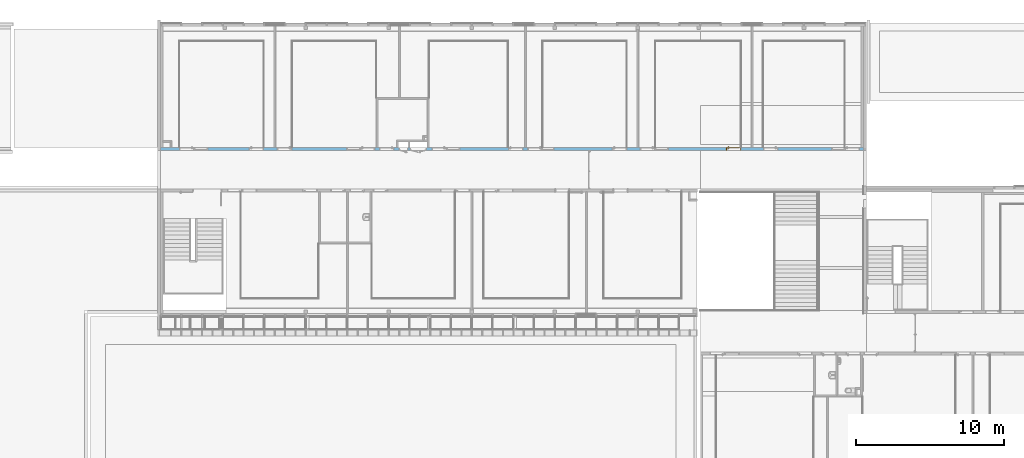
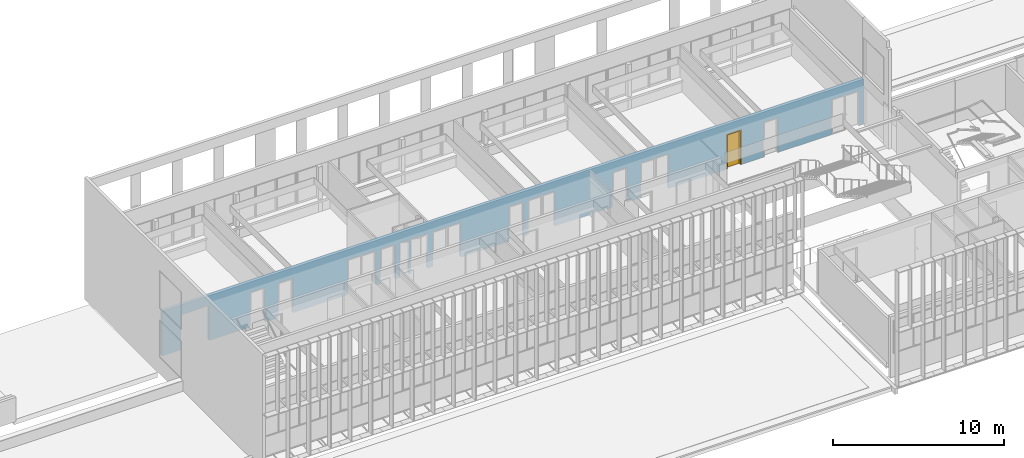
# One storey, part 58 of 106: 1 door, 21 openings, plus 1 element that does not belong to this part.
"""IFC2X3 building model written with IfcOpenShell, lengths in centimetres."""

from ifc_helpers import new_model, entity, si_unit, converted_unit, derived_unit, direction, frame, frame_2d, origin, place, context, subcontext, project, spatial, polyline, rectangle, extrude, clip, bounded_halfspace, faceted_brep, source, transform, mapped, material, material_list, layer, layer_set, layer_usage, type_object, type_shapes, element, fill, save


model = new_model("IFC2X3")

# Units and contexts
model_context = context("Model", 3, precision=0.001, world=origin(), true_north=direction((6.12303176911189e-17, 1.0)))
body_context = subcontext(model_context, "Body", "Model", "MODEL_VIEW")
ifc_project = project(units=[si_unit("LENGTHUNIT", "METRE", prefix="CENTI"), si_unit("AREAUNIT", "SQUARE_METRE"), si_unit("VOLUMEUNIT", "CUBIC_METRE"), converted_unit("PLANEANGLEUNIT", "DEGREE", entity("IfcRatioMeasure", 0.0174532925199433), si_unit("PLANEANGLEUNIT", "RADIAN"), dimensions=[0, 0, 0, 0, 0, 0, 0]), si_unit("MASSUNIT", "GRAM", prefix="KILO"), derived_unit("MASSDENSITYUNIT", [(si_unit("MASSUNIT", "GRAM", prefix="KILO"), 1), (si_unit("LENGTHUNIT", "METRE"), -3)]), si_unit("TIMEUNIT", "SECOND"), si_unit("FREQUENCYUNIT", "HERTZ"), si_unit("THERMODYNAMICTEMPERATUREUNIT", "DEGREE_CELSIUS"), derived_unit("THERMALTRANSMITTANCEUNIT", [(si_unit("MASSUNIT", "GRAM", prefix="KILO"), 1), (si_unit("THERMODYNAMICTEMPERATUREUNIT", "KELVIN"), -1), (si_unit("TIMEUNIT", "SECOND"), -3)]), derived_unit("VOLUMETRICFLOWRATEUNIT", [(si_unit("LENGTHUNIT", "METRE"), 3), (si_unit("TIMEUNIT", "SECOND"), -1)]), si_unit("ELECTRICCURRENTUNIT", "AMPERE"), si_unit("ELECTRICVOLTAGEUNIT", "VOLT"), si_unit("POWERUNIT", "WATT"), si_unit("FORCEUNIT", "NEWTON", prefix="KILO"), si_unit("ILLUMINANCEUNIT", "LUX"), si_unit("LUMINOUSFLUXUNIT", "LUMEN"), si_unit("LUMINOUSINTENSITYUNIT", "CANDELA"), derived_unit("USERDEFINED", [(si_unit("MASSUNIT", "GRAM", prefix="KILO"), -1), (si_unit("LENGTHUNIT", "METRE"), -2), (si_unit("TIMEUNIT", "SECOND"), 3), (si_unit("LUMINOUSFLUXUNIT", "LUMEN"), 1)]), derived_unit("LINEARVELOCITYUNIT", [(si_unit("LENGTHUNIT", "METRE"), 1), (si_unit("TIMEUNIT", "SECOND"), -1)]), si_unit("PRESSUREUNIT", "PASCAL"), derived_unit("USERDEFINED", [(si_unit("LENGTHUNIT", "METRE"), -2), (si_unit("MASSUNIT", "GRAM", prefix="KILO"), 1), (si_unit("TIMEUNIT", "SECOND"), -2)])], contexts=[model_context])

# Site, building, storey
site_placement = place(None, frame((-2781.94577612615, 7442.24238424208, 0.0)))
site = spatial("IfcSite", under=ifc_project, at=site_placement, Name="Default", CompositionType="ELEMENT")
building_placement = place(site_placement, origin())
building = spatial("IfcBuilding", under=site, at=building_placement, CompositionType="ELEMENT")
storey_placement = place(building_placement, frame((0.0, 0.0, 422.0)))
storey = spatial("IfcBuildingStorey", under=building, at=storey_placement, Name="Toiture - Cuisine", CompositionType="ELEMENT", Elevation=421.999999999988)

# Wall, openings, door
ifc_material_1 = material(Name="01 - Maçonnerie")
ifc_layer = layer(ifc_material_1, 20.0)
ifc_layer_set = layer_set([ifc_layer], Name="Mur de base:04 - Structure - béton - 20cm")
ifc_layer_usage = layer_usage(ifc_layer_set, "AXIS2", "NEGATIVE", 10.0)
wall_type = type_object("IfcWallType", Name="Mur de base:04 - Structure - béton - 20cm", PredefinedType="STANDARD", material=ifc_layer_set)
wall_placement = place(building_placement, frame((-8409.49987766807, -820.048500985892, 422.0)))
wall = element("IfcWallStandardCase", 1, at=wall_placement, inside=storey, type_object=wall_type, material=ifc_layer_usage, Name="Mur de base:04 - Structure - béton - 20cm", ObjectType="Mur de base:04 - Structure - béton - 20cm", context=body_context, shape_type="Clipping", body=[
    clip(extrude(rectangle(XDim=4741.49999798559, YDim=20.0, at=frame_2d((2370.74999899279, 2.04281036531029e-14), x_axis=(-1.0, 0.0))), origin(), (0.0, 0.0, 1.0), 321.0), bounded_halfspace(frame((4741.49999798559, -10.0, 321.0), z_axis=(0.0, 0.0, -1.0), x_axis=(0.0, 1.0, 0.0)), True, frame((4741.49999798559, -10.0, 321.0)), polyline([(0.0, 0.0), (0.0, 20.0), (-15.3000000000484, 20.0), (-125.300000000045, 20.0), (-127.300000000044, 20.0), (-675.800000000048, 20.0), (-677.800000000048, 20.0), (-745.800000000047, 20.0), (-755.800000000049, 20.0), (-825.800000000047, 20.0), (-827.800000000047, 20.0), (-1403.80000000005, 20.0), (-1405.80000000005, 20.0), (-1516.49999791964, 20.0), (-1526.49999791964, 20.0), (-1595.78709704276, 20.0), (-1597.78709704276, 20.0), (-2163.80000000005, 20.0), (-2165.80000000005, 20.0), (-2275.80000000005, 20.0), (-2285.80000000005, 20.0), (-2395.80000000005, 20.0), (-2397.80000000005, 20.0), (-2931.80000000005, 20.0), (-2941.80000000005, 20.0), (-3060.80000000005, 20.0), (-3070.80000000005, 20.0), (-3137.80000000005, 20.0), (-3147.80000000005, 20.0), (-3275.80000000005, 20.0), (-3285.80000000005, 20.0), (-3416.49999791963, 20.0), (-3535.80000000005, 20.0), (-3545.80000000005, 20.0), (-3611.80000000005, 20.0), (-3853.80000000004, 20.0), (-3855.80000000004, 20.0), (-3965.80000000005, 20.0), (-3975.80000000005, 20.0), (-4044.30000000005, 20.0), (-4046.30000000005, 20.0), (-4614.19999798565, 20.0), (-4616.19999798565, 20.0), (-4666.19999798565, 20.0), (-4676.19999798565, 20.0), (-4726.19999798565, 20.0), (-4741.49999798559, 20.0), (-4741.49999798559, 0.0), (-1854.0, 0.0), (-1844.0, 0.0), (-1840.0, 0.0), (0.0, 0.0)]))),
])
opening_1_placement = place(wall_placement, frame((1669.50000006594, 10.0, 0.0)))
element("IfcOpeningElement", 2, at=opening_1_placement, cuts=wall, Name="Int. Simple:PP Placard (0.55m x 2.50m):1", ObjectType="Opening", context=body_context, shape_type="SweptSolid", body=[
    extrude(rectangle(XDim=248.500000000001, YDim=61.9999999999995, at=frame_2d((124.250000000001, 30.9999999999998), x_axis=(1.0, 0.0))), frame((0.0, 0.0, 0.0), z_axis=(0.0, -1.0, 0.0), x_axis=(0.0, 0.0, 1.0)), (0.0, 0.0, 1.0), 20.0),
])
opening_2_placement = place(wall_placement, frame((1794.50000006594, 10.0, 0.0)))
element("IfcOpeningElement", 3, at=opening_2_placement, cuts=wall, Name="Int. Double:PP Placard (1.05m x 2.50m):1", ObjectType="Opening", context=body_context, shape_type="SweptSolid", body=[
    extrude(rectangle(XDim=248.500000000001, YDim=112.0, at=frame_2d((124.250000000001, 56.0000000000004), x_axis=(1.0, 0.0))), frame((0.0, 0.0, 0.0), z_axis=(0.0, -1.0, 0.0), x_axis=(0.0, 0.0, 1.0)), (0.0, 0.0, 1.0), 20.0),
])
opening_3_placement = place(wall_placement, frame((126.799999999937, -10.0, 0.0)))
element("IfcOpeningElement", 4, at=opening_3_placement, cuts=wall, Name="Int. Simple:PV (0.93m x 2.50m):1", ObjectType="Opening", context=body_context, shape_type="SweptSolid", body=[
    extrude(rectangle(XDim=248.500000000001, YDim=99.9999999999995, at=frame_2d((124.250000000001, 50.0), x_axis=(1.0, 0.0))), frame((0.0, 0.0, 0.0), z_axis=(0.0, 1.0, 0.0), x_axis=(0.0, 0.0, 1.0)), (0.0, 0.0, 1.0), 20.0),
])
opening_4_placement = place(wall_placement, frame((595.699997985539, -10.0, 0.0)))
element("IfcOpeningElement", 5, at=opening_4_placement, cuts=wall, Name="Int. Simple:PV (0.93m x 2.50m):1", ObjectType="Opening", context=body_context, shape_type="SweptSolid", body=[
    extrude(rectangle(XDim=248.500000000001, YDim=99.9999999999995, at=frame_2d((124.250000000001, 49.9999999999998), x_axis=(1.0, 0.0))), frame((0.0, 0.0, 0.0), z_axis=(0.0, 1.0, 0.0), x_axis=(0.0, 0.0, 1.0)), (0.0, 0.0, 1.0), 20.0),
])
opening_5_placement = place(wall_placement, frame((785.699997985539, -10.0, 0.0)))
element("IfcOpeningElement", 6, at=opening_5_placement, cuts=wall, Name="Int. Simple:PV (0.93m x 2.50m):1", ObjectType="Opening", context=body_context, shape_type="SweptSolid", body=[
    extrude(rectangle(XDim=248.500000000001, YDim=99.9999999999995, at=frame_2d((124.250000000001, 50.0), x_axis=(1.0, 0.0))), frame((0.0, 0.0, 0.0), z_axis=(0.0, 1.0, 0.0), x_axis=(0.0, 0.0, 1.0)), (0.0, 0.0, 1.0), 20.0),
])
opening_6_placement = place(wall_placement, frame((1345.69999798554, -10.0, 0.0)))
element("IfcOpeningElement", 7, at=opening_6_placement, cuts=wall, Name="Int. Simple:PV (0.93m x 2.50m):1", ObjectType="Opening", context=body_context, shape_type="SweptSolid", body=[
    extrude(rectangle(XDim=248.500000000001, YDim=99.9999999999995, at=frame_2d((124.250000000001, 49.9999999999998), x_axis=(1.0, 0.0))), frame((0.0, 0.0, 0.0), z_axis=(0.0, 1.0, 0.0), x_axis=(0.0, 0.0, 1.0)), (0.0, 0.0, 1.0), 20.0),
])
opening_7_placement = place(wall_placement, frame((1475.69999798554, -10.0, 0.0)))
element("IfcOpeningElement", 8, at=opening_7_placement, cuts=wall, Name="Int. Simple:PP simple (0.93m x 2.50m):1", ObjectType="Opening", context=body_context, shape_type="SweptSolid", body=[
    extrude(rectangle(XDim=248.500000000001, YDim=99.9999999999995, at=frame_2d((124.250000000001, 50.0), x_axis=(1.0, 0.0))), frame((0.0, 0.0, 0.0), z_axis=(0.0, 1.0, 0.0), x_axis=(0.0, 0.0, 1.0)), (0.0, 0.0, 1.0), 20.0),
])
opening_8_placement = place(wall_placement, frame((1829.69999798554, -10.0, 0.0)))
element("IfcOpeningElement", 9, at=opening_8_placement, cuts=wall, Name="Int. Simple:PV (0.93m x 2.50m):1", ObjectType="Opening", context=body_context, shape_type="SweptSolid", body=[
    extrude(rectangle(XDim=248.500000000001, YDim=99.9999999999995, at=frame_2d((124.250000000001, 50.0), x_axis=(1.0, 0.0))), frame((0.0, 0.0, 0.0), z_axis=(0.0, 1.0, 0.0), x_axis=(0.0, 0.0, 1.0)), (0.0, 0.0, 1.0), 20.0),
])
opening_9_placement = place(wall_placement, frame((2345.69999798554, -10.0, 0.0)))
element("IfcOpeningElement", 10, at=opening_9_placement, cuts=wall, Name="Int. Simple:PV (0.93m x 2.50m):1", ObjectType="Opening", context=body_context, shape_type="SweptSolid", body=[
    extrude(rectangle(XDim=248.500000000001, YDim=99.9999999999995, at=frame_2d((124.250000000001, 49.9999999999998), x_axis=(1.0, 0.0))), frame((0.0, 0.0, 0.0), z_axis=(0.0, 1.0, 0.0), x_axis=(0.0, 0.0, 1.0)), (0.0, 0.0, 1.0), 20.0),
])
opening_10_placement = place(wall_placement, frame((2475.69999798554, -10.0, 0.0)))
element("IfcOpeningElement", 11, at=opening_10_placement, cuts=wall, Name="Int. Simple:PV (0.93m x 2.50m):1", ObjectType="Opening", context=body_context, shape_type="SweptSolid", body=[
    extrude(rectangle(XDim=248.500000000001, YDim=99.9999999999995, at=frame_2d((124.250000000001, 50.0), x_axis=(1.0, 0.0))), frame((0.0, 0.0, 0.0), z_axis=(0.0, 1.0, 0.0), x_axis=(0.0, 0.0, 1.0)), (0.0, 0.0, 1.0), 20.0),
])
opening_11_placement = place(wall_placement, frame((3045.69999798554, -10.0, 0.0)))
element("IfcOpeningElement", 12, at=opening_11_placement, cuts=wall, Name="Int. Simple:PV (0.93m x 2.50m):1", ObjectType="Opening", context=body_context, shape_type="SweptSolid", body=[
    extrude(rectangle(XDim=248.500000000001, YDim=99.9999999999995, at=frame_2d((124.250000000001, 49.9999999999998), x_axis=(1.0, 0.0))), frame((0.0, 0.0, 0.0), z_axis=(0.0, 1.0, 0.0), x_axis=(0.0, 0.0, 1.0)), (0.0, 0.0, 1.0), 20.0),
])
opening_12_placement = place(wall_placement, frame((3235.69999798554, -10.0, 0.0)))
element("IfcOpeningElement", 13, at=opening_12_placement, cuts=wall, Name="Int. Simple:PV (0.93m x 2.50m):1", ObjectType="Opening", context=body_context, shape_type="SweptSolid", body=[
    extrude(rectangle(XDim=248.500000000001, YDim=99.9999999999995, at=frame_2d((124.250000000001, 50.0), x_axis=(1.0, 0.0))), frame((0.0, 0.0, 0.0), z_axis=(0.0, 1.0, 0.0), x_axis=(0.0, 0.0, 1.0)), (0.0, 0.0, 1.0), 20.0),
])
opening_13_placement = place(wall_placement, frame((3815.69999798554, -10.0, 0.0)))
opening_13 = element("IfcOpeningElement", 14, at=opening_13_placement, cuts=wall, Name="Int. Simple:PV (0.93m x 2.50m):1", ObjectType="Opening", context=body_context, shape_type="SweptSolid", body=[
    extrude(rectangle(XDim=248.500000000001, YDim=99.9999999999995, at=frame_2d((124.250000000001, 49.9999999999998), x_axis=(1.0, 0.0))), frame((0.0, 0.0, 0.0), z_axis=(0.0, 1.0, 0.0), x_axis=(0.0, 0.0, 1.0)), (0.0, 0.0, 1.0), 20.0),
])
opening_14_placement = place(wall_placement, frame((4065.69999798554, -10.0, 0.0)))
element("IfcOpeningElement", 15, at=opening_14_placement, cuts=wall, Name="Int. Simple:PV (0.93m x 2.50m):1", ObjectType="Opening", context=body_context, shape_type="SweptSolid", body=[
    extrude(rectangle(XDim=248.500000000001, YDim=99.9999999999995, at=frame_2d((124.250000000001, 50.0), x_axis=(1.0, 0.0))), frame((0.0, 0.0, 0.0), z_axis=(0.0, 1.0, 0.0), x_axis=(0.0, 0.0, 1.0)), (0.0, 0.0, 1.0), 20.0),
])
opening_15_placement = place(wall_placement, frame((4616.19999798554, -10.0, 0.0)))
element("IfcOpeningElement", 16, at=opening_15_placement, cuts=wall, Name="Int. Simple:PV (0.93m x 2.50m):1", ObjectType="Opening", context=body_context, shape_type="SweptSolid", body=[
    extrude(rectangle(XDim=248.500000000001, YDim=99.9999999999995, at=frame_2d((124.250000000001, 49.9999999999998), x_axis=(1.0, 0.0))), frame((0.0, 0.0, 0.0), z_axis=(0.0, 1.0, 0.0), x_axis=(0.0, 0.0, 1.0)), (0.0, 0.0, 1.0), 20.0),
])
opening_16_placement = place(wall_placement, frame((1255.69999798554, -10.0, 0.0)))
element("IfcOpeningElement", 17, at=opening_16_placement, cuts=wall, Name="châssis intérieur vitré:châssis intérieur vitré (h=270) R+1:1", ObjectType="Opening", context=body_context, shape_type="SweptSolid", body=[
    extrude(rectangle(XDim=250.0, YDim=89.9999999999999, at=frame_2d((125.0, 45.0), x_axis=(1.0, 0.0))), frame((0.0, 0.0, 0.0), z_axis=(0.0, 1.0, 0.0), x_axis=(0.0, 0.0, 1.0)), (0.0, 0.0, 1.0), 20.0),
])
opening_17_placement = place(wall_placement, frame((1929.69999798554, -10.0, 0.0)))
element("IfcOpeningElement", 18, at=opening_17_placement, cuts=wall, Name="châssis intérieur vitré:châssis intérieur vitré (h=270) R+1:1", ObjectType="Opening", context=body_context, shape_type="SweptSolid", body=[
    extrude(rectangle(XDim=250.0, YDim=89.9999999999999, at=frame_2d((125.0, 45.0), x_axis=(1.0, 0.0))), frame((0.0, 0.0, 0.0), z_axis=(0.0, 1.0, 0.0), x_axis=(0.0, 0.0, 1.0)), (0.0, 0.0, 1.0), 20.0),
])
opening_18_placement = place(wall_placement, frame((4526.19999798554, -10.0, 0.0)))
element("IfcOpeningElement", 19, at=opening_18_placement, cuts=wall, Name="châssis intérieur vitré:châssis intérieur vitré (h=270) R+1:1", ObjectType="Opening", context=body_context, shape_type="SweptSolid", body=[
    extrude(rectangle(XDim=250.0, YDim=89.9999999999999, at=frame_2d((125.0, 45.0000000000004), x_axis=(1.0, 0.0))), frame((0.0, 0.0, 0.0), z_axis=(0.0, 1.0, 0.0), x_axis=(0.0, 0.0, 1.0)), (0.0, 0.0, 1.0), 20.0),
])
opening_19_placement = place(wall_placement, frame((3335.69999798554, -10.0, 0.0)))
element("IfcOpeningElement", 20, at=opening_19_placement, cuts=wall, Name="châssis intérieur vitré:châssis intérieur vitré (h=270) R+1:1", ObjectType="Opening", context=body_context, shape_type="SweptSolid", body=[
    extrude(rectangle(XDim=250.0, YDim=89.9999999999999, at=frame_2d((125.0, 45.0000000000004), x_axis=(1.0, 0.0))), frame((0.0, 0.0, 0.0), z_axis=(0.0, 1.0, 0.0), x_axis=(0.0, 0.0, 1.0)), (0.0, 0.0, 1.0), 20.0),
])
opening_20_placement = place(wall_placement, frame((2565.69999798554, -10.0, 0.0)))
element("IfcOpeningElement", 21, at=opening_20_placement, cuts=wall, Name="châssis intérieur vitré:châssis intérieur vitré (h=270) R+1:1", ObjectType="Opening", context=body_context, shape_type="SweptSolid", body=[
    extrude(rectangle(XDim=250.0, YDim=89.9999999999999, at=frame_2d((125.0, 45.0000000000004), x_axis=(1.0, 0.0))), frame((0.0, 0.0, 0.0), z_axis=(0.0, 1.0, 0.0), x_axis=(0.0, 0.0, 1.0)), (0.0, 0.0, 1.0), 20.0),
])
opening_21_placement = place(wall_placement, frame((226.799999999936, -10.0, 0.0)))
element("IfcOpeningElement", 22, at=opening_21_placement, cuts=wall, Name="châssis intérieur vitré:châssis intérieur vitré (h=270) R+1:1", ObjectType="Opening", context=body_context, shape_type="SweptSolid", body=[
    extrude(rectangle(XDim=250.0, YDim=91.4999999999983, at=frame_2d((125.0, 45.7499999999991), x_axis=(1.0, 0.0))), frame((0.0, 0.0, 0.0), z_axis=(0.0, 1.0, 0.0), x_axis=(0.0, 0.0, 1.0)), (0.0, 0.0, 1.0), 20.0),
])
ifc_material_2 = material(Name="Finition Peinture - Blanc satiné")
ifc_material_3 = material(Name="Bois - Panneau de porte")
ifc_material_4 = material(Name="Bois - Cadre de porte")
ifc_material_list_1 = material_list([ifc_material_2, ifc_material_3, ifc_material_4])
ifc_material_list_2 = material_list([ifc_material_2, ifc_material_3, ifc_material_4])
door_style = type_object("IfcDoorStyle", Name="PV (0.93m x 2.50m)", ConstructionType="NOTDEFINED", OperationType="SINGLE_SWING_RIGHT", ParameterTakesPrecedence=False, Sizeable=False, material=ifc_material_list_2)
shared_shape = source(origin(), body_context, "Body", "Brep", [
    faceted_brep([(99.5000000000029, -0.500000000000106, 87.0), (99.5000000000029, -0.500000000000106, 108.0), (98.535276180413, -0.500000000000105, 108.399601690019), (97.5000000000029, -0.500000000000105, 108.535898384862), (96.4647238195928, -0.500000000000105, 108.399601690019), (95.500000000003, -0.500000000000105, 108.0), (95.5000000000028, -0.500000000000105, 87.0), (96.4647238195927, -0.500000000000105, 86.6003983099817), (97.5000000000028, -0.500000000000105, 86.464101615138), (98.5352761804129, -0.500000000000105, 86.6003983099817), (99.5000000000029, 0.0, 108.0), (99.5000000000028, 0.0, 87.0), (98.5352761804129, 0.0, 86.6003983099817), (97.5000000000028, 0.0, 86.464101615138), (96.4647238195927, 0.0, 86.6003983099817), (95.5000000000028, 0.0, 87.0), (95.5000000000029, 0.0, 108.0), (96.4647238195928, 0.0, 108.399601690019), (97.5000000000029, 0.0, 108.535898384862), (98.535276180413, 0.0, 108.399601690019)], [[[0, 1, 2, 3, 4, 5, 6, 7, 8, 9]], [[10, 11, 12, 13, 14, 15, 16, 17, 18, 19]], [[9, 12, 11, 0]], [[8, 13, 12, 9]], [[7, 14, 13, 8]], [[7, 6, 15, 14]], [[15, 6, 5, 16]], [[4, 17, 16, 5]], [[3, 18, 17, 4]], [[2, 19, 18, 3]], [[2, 1, 10, 19]], [[11, 10, 1, 0]]]),
    faceted_brep([(99.5000000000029, 4.0, 87.0), (99.5000000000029, 4.0, 108.0), (98.535276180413, 4.0, 108.399601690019), (97.5000000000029, 4.0, 108.535898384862), (96.4647238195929, 4.0, 108.399601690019), (95.500000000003, 4.0, 108.0), (95.5000000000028, 4.0, 87.0), (96.4647238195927, 4.0, 86.6003983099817), (97.5000000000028, 4.0, 86.464101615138), (98.5352761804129, 4.0, 86.6003983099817), (97.5000000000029, 4.49999999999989, 108.535898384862), (98.535276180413, 4.49999999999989, 108.399601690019), (99.5000000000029, 4.49999999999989, 108.0), (99.5000000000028, 4.49999999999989, 87.0), (98.5352761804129, 4.49999999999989, 86.6003983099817), (97.5000000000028, 4.49999999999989, 86.464101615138), (96.4647238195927, 4.49999999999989, 86.6003983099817), (95.5000000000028, 4.49999999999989, 87.0), (95.500000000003, 4.49999999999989, 108.0), (96.4647238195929, 4.49999999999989, 108.399601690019)], [[[0, 1, 2, 3, 4, 5, 6, 7, 8, 9]], [[10, 11, 12, 13, 14, 15, 16, 17, 18, 19]], [[4, 19, 18, 5]], [[3, 10, 19, 4]], [[2, 11, 10, 3]], [[2, 1, 12, 11]], [[13, 12, 1, 0]], [[9, 14, 13, 0]], [[8, 15, 14, 9]], [[7, 16, 15, 8]], [[7, 6, 17, 16]], [[17, 6, 5, 18]]]),
    faceted_brep([(97.2974701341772, -0.500000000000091, 100.778044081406), (97.7025298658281, -0.500000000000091, 100.778044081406), (98.1000000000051, -0.500000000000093, 100.699999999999), (98.100000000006, -0.500000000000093, 99.2999999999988), (97.7025298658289, -0.500000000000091, 99.221955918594), (97.297470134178, -0.500000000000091, 99.2219559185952), (96.9000000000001, -0.500000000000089, 99.3000000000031), (96.9000000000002, -0.500000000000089, 100.7), (97.7025298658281, -3.10045754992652, 100.778044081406), (98.1000000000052, -3.26509507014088, 100.7), (97.2974701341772, -2.93267631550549, 100.778044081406), (95.9298602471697, -4.30028620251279, 100.778044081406), (96.0976414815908, -4.70534593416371, 100.778044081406), (96.9000000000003, -2.76803879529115, 100.7), (96.9000000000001, -2.76803879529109, 99.3000000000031), (97.297470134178, -2.93267631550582, 99.2219559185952), (97.7025298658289, -3.10045754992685, 99.221955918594), (96.0976414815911, -4.70534593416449, 99.221955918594), (95.9298602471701, -4.30028620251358, 99.2219559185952), (98.100000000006, -3.26509507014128, 99.2999999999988), (96.2622790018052, -5.1028160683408, 100.7), (95.7652227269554, -3.90281606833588, 100.7), (95.7652227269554, -3.90281606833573, 99.3000000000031), (96.2622790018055, -5.10281606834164, 99.2999999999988), (87.4981359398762, -5.10281606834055, 100.7), (87.4981359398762, -4.70534593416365, 100.778044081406), (87.4981359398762, -4.30028620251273, 100.778044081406), (87.4981359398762, -3.90281606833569, 100.699999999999), (87.4981359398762, -3.90281606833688, 99.3000000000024), (87.4981359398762, -4.30028620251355, 99.2219559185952), (87.4981359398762, -4.70534593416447, 99.221955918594), (87.4981359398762, -5.10281606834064, 99.2999999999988), (91.7139980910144, -4.5028160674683, 100.78786867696), (92.2692302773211, -5.1028160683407, 100.7), (91.6316793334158, -3.9028160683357, 100.7), (91.631679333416, -3.90281606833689, 99.3000000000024), (91.7139981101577, -4.50281607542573, 99.2121313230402), (92.2692310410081, -5.10281606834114, 99.2999999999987)], [[[0, 1, 2, 3, 4, 5, 6, 7]], [[2, 1, 8, 9]], [[1, 0, 10, 11, 12, 8]], [[0, 7, 13, 10]], [[14, 13, 7, 6]], [[5, 15, 14, 6]], [[5, 4, 16, 17, 18, 15]], [[3, 19, 16, 4]], [[9, 19, 3, 2]], [[9, 8, 12, 20]], [[10, 13, 21, 11]], [[22, 21, 13, 14]], [[14, 15, 18, 22]], [[16, 19, 23, 17]], [[20, 23, 19, 9]], [[24, 25, 26, 27, 28, 29, 30, 31]], [[32, 25, 33]], [[33, 25, 24]], [[33, 20, 12]], [[11, 34, 32]], [[34, 11, 21]], [[27, 26, 34]], [[32, 26, 25]], [[32, 34, 26]], [[32, 33, 12]], [[11, 32, 12]], [[21, 22, 35, 28, 27, 34]], [[36, 29, 35]], [[30, 36, 37]], [[18, 35, 22]], [[29, 28, 35]], [[30, 37, 31]], [[37, 17, 23]], [[36, 17, 37]], [[36, 18, 17]], [[36, 35, 18]], [[29, 36, 30]], [[23, 20, 33, 24, 31, 37]]]),
    faceted_brep([(97.2974701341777, 4.49999999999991, 99.2219559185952), (97.7025298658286, 4.49999999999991, 99.221955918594), (98.1000000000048, 4.4999999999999, 99.2999999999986), (98.1000000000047, 4.4999999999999, 100.7), (97.7025298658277, 4.49999999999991, 100.778044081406), (97.2974701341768, 4.49999999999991, 100.778044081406), (96.8999999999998, 4.49999999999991, 100.7), (96.900000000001, 4.49999999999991, 99.3000000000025), (96.8999999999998, 6.7485204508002, 100.7), (96.8999999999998, 6.74852045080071, 99.3000000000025), (97.2974701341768, 6.91315797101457, 100.778044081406), (97.7025298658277, 7.0809392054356, 100.778044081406), (96.0838906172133, 8.69957845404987, 100.778044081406), (95.9161093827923, 8.29451872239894, 100.778044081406), (98.1000000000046, 7.24557672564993, 100.7), (98.1000000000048, 7.24557672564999, 99.2999999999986), (97.7025298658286, 7.08093920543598, 99.221955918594), (97.2974701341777, 6.91315797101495, 99.2219559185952), (95.9161093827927, 8.29451872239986, 99.2219559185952), (96.0838906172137, 8.69957845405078, 99.221955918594), (95.751471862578, 7.89704858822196, 100.7), (95.7514718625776, 7.89704858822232, 99.3000000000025), (96.2485281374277, 9.09704858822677, 100.7), (96.2485281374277, 9.09704858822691, 99.2999999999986), (87.4954216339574, 8.29451872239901, 100.778044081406), (87.4954216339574, 8.69957845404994, 100.778044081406), (87.4954216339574, 9.09704858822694, 100.7), (87.4954216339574, 9.09704858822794, 99.2999999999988), (87.4954216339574, 8.6995784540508, 99.221955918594), (87.4954216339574, 8.29451872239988, 99.2219559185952), (87.4954216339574, 7.89704858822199, 99.3000000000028), (87.4954216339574, 7.89704858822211, 100.7), (91.6234467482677, 7.89704858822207, 100.7), (91.6234479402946, 7.89704858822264, 99.3000000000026), (91.7057655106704, 8.49704858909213, 100.78786867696), (92.255479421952, 9.09704858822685, 100.7), (92.2554795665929, 9.09704858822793, 99.2999999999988), (91.7057654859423, 8.49704858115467, 99.2121313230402)], [[[0, 1, 2, 3, 4, 5, 6, 7]], [[8, 9, 7, 6]], [[5, 10, 8, 6]], [[5, 4, 11, 12, 13, 10]], [[3, 14, 11, 4]], [[14, 3, 2, 15]], [[2, 1, 16, 15]], [[1, 0, 17, 18, 19, 16]], [[0, 7, 9, 17]], [[20, 21, 9, 8]], [[8, 10, 13, 20]], [[14, 22, 12, 11]], [[23, 22, 14, 15]], [[15, 16, 19, 23]], [[17, 9, 21, 18]], [[24, 25, 26, 27, 28, 29, 30, 31]], [[21, 20, 32, 31, 30, 33]], [[34, 24, 32]], [[25, 34, 35]], [[13, 32, 20]], [[24, 31, 32]], [[25, 35, 26]], [[35, 12, 22]], [[34, 12, 35]], [[34, 13, 12]], [[34, 32, 13]], [[24, 34, 25]], [[22, 23, 36, 27, 26, 35]], [[37, 28, 36]], [[36, 28, 27]], [[36, 23, 19]], [[18, 33, 37]], [[33, 18, 21]], [[30, 29, 33]], [[37, 29, 28]], [[37, 33, 29]], [[37, 36, 19]], [[18, 37, 19]]]),
    faceted_brep([(103.500000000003, 4.0, 245.0), (103.500000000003, 4.0, 0.0), (10.5000000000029, 4.0, 0.0), (10.5000000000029, 4.0, 245.0), (103.500000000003, 0.0, 245.0), (10.5000000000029, 0.0, 245.0), (10.5000000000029, 0.0, 0.0), (103.500000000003, 0.0, 0.0)], [[[0, 1, 2, 3]], [[4, 5, 6, 7]], [[3, 5, 4, 0]], [[2, 6, 5, 3]], [[1, 7, 6, 2]], [[0, 4, 7, 1]]]),
    faceted_brep([(107.0, 20.0, 0.0), (107.0, 0.0, 0.0), (108.500000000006, 0.0, 0.0), (108.500000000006, -0.500000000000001, 0.0), (103.500000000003, -0.500000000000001, 0.0), (103.500000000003, 4.0, 0.0), (102.0, 4.0, 0.0), (102.0, 20.5000000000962, 0.0), (108.500000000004, 20.5000000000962, 0.0), (108.500000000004, 20.0, 0.0), (108.500000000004, 20.0, 250.0), (5.50000000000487, 20.0, 250.0), (5.50000000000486, 20.0, 0.0), (7.0, 20.0, 0.0), (7.0, 20.0, 248.500000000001), (107.0, 20.0, 248.500000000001), (108.500000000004, 20.5000000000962, 250.0), (102.0, 20.5000000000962, 243.5), (12.0, 20.5000000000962, 243.5), (12.0, 20.5000000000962, 0.0), (5.50000000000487, 20.5000000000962, 0.0), (5.50000000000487, 20.5000000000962, 250.0), (102.0, 4.0, 243.5), (103.500000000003, 4.0, 245.0), (10.5000000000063, 4.0, 245.0), (10.5000000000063, 4.0, 0.0), (12.0, 4.0, 0.0), (12.0, 4.0, 243.5), (103.500000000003, -0.500000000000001, 245.0), (108.500000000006, -0.500000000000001, 250.0), (5.5000000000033, -0.500000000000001, 250.0), (5.50000000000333, -0.500000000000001, 0.0), (10.5000000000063, -0.500000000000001, 0.0), (10.5000000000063, -0.500000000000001, 245.0), (108.500000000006, 0.0, 250.0), (107.0, 0.0, 248.500000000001), (7.0, 0.0, 248.500000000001), (7.0, 0.0, 0.0), (5.5000000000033, 0.0, 0.0), (5.50000000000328, 0.0, 250.0)], [[[0, 1, 2, 3, 4, 5, 6, 7, 8, 9]], [[9, 10, 11, 12, 13, 14, 15, 0]], [[8, 16, 10, 9]], [[7, 17, 18, 19, 20, 21, 16, 8]], [[7, 6, 22, 17]], [[5, 23, 24, 25, 26, 27, 22, 6]], [[5, 4, 28, 23]], [[3, 29, 30, 31, 32, 33, 28, 4]], [[2, 34, 29, 3]], [[1, 35, 36, 37, 38, 39, 34, 2]], [[0, 15, 35, 1]], [[14, 13, 37, 36]], [[13, 12, 20, 19, 26, 25, 32, 31, 38, 37]], [[21, 20, 12, 11]], [[27, 26, 19, 18]], [[33, 32, 25, 24]], [[39, 38, 31, 30]], [[16, 21, 11, 10]], [[22, 27, 18, 17]], [[28, 33, 24, 23]], [[34, 39, 30, 29]], [[15, 14, 36, 35]]]),
])
type_shapes(door_style, [shared_shape])
door_placement = place(opening_13_placement, frame((107.0, 20.0, 0.0), z_axis=(0.0, 0.0, 1.0), x_axis=(-1.0, 0.0, 0.0)))
door = element("IfcDoor", 23, at=door_placement, inside=storey, type_object=door_style, material=ifc_material_list_1, Name="Int. Simple:PV (0.93m x 2.50m)", ObjectType="Int. Simple:PV (0.93m x 2.50m)", OverallHeight=248.500000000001, OverallWidth=99.9999999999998, context=body_context, shape_type="MappedRepresentation", body=[
    mapped(shared_shape, transform((0.0, 0.0, 0.0), scale=1.0)),
])
fill(opening_13, door)

save(model, "model.ifc")
